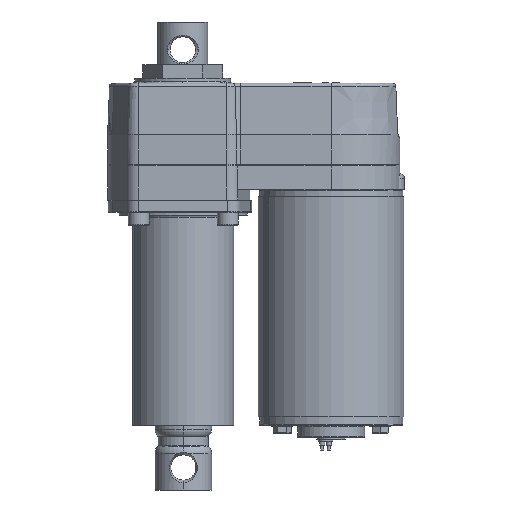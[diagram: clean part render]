
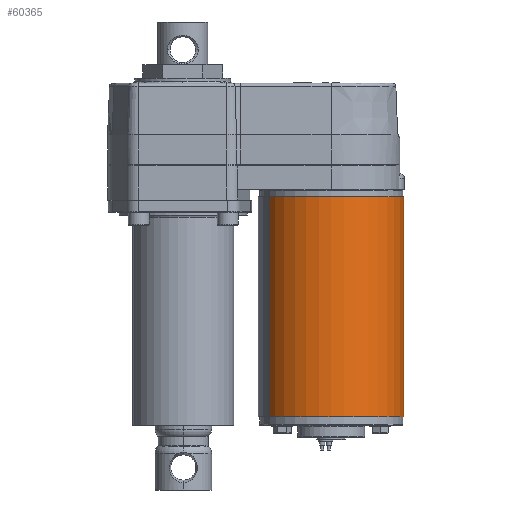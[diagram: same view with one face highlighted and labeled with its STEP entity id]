
A CAD part, front view. The second image highlights one B-rep face of the part: STEP entity #60365.
In plain terms, the highlighted cylindrical face has radius 36.805 mm (diameter 73.61 mm), a partial arc.
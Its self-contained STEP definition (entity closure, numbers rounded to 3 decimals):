
#833 = EDGE_CURVE ( 'NONE', #67118, #13141, #37939, .T. ) ;
#958 = VERTEX_POINT ( 'NONE', #35802 ) ;
#4707 = ORIENTED_EDGE ( 'NONE', *, *, #69696, .F. ) ;
#5420 = EDGE_LOOP ( 'NONE', ( #4707, #65863, #5880, #63142 ) ) ;
#5880 = ORIENTED_EDGE ( 'NONE', *, *, #833, .T. ) ;
#5988 = CYLINDRICAL_SURFACE ( 'NONE', #53856, 36.805 ) ;
#6582 = CARTESIAN_POINT ( 'NONE',  ( -36.805, 0., -3.7 ) ) ;
#7670 = CARTESIAN_POINT ( 'NONE',  ( 0., 0., -3.7 ) ) ;
#8315 = EDGE_CURVE ( 'NONE', #958, #67118, #29581, .T. ) ;
#10812 = CARTESIAN_POINT ( 'NONE',  ( 0., 0., -114.7 ) ) ;
#12492 = AXIS2_PLACEMENT_3D ( 'NONE', #10812, #65609, #60371 ) ;
#13141 = VERTEX_POINT ( 'NONE', #49157 ) ;
#19763 = EDGE_CURVE ( 'NONE', #41891, #13141, #28931, .T. ) ;
#21674 = CIRCLE ( 'NONE', #63352, 36.805 ) ;
#24299 = DIRECTION ( 'NONE',  ( -1., 0., 0. ) ) ;
#24995 = CARTESIAN_POINT ( 'NONE',  ( 36.805, 0., -3.7 ) ) ;
#28931 = LINE ( 'NONE', #64704, #55240 ) ;
#29581 = LINE ( 'NONE', #24995, #69614 ) ;
#29990 = CARTESIAN_POINT ( 'NONE',  ( 0., 0., -3.7 ) ) ;
#35802 = CARTESIAN_POINT ( 'NONE',  ( 36.805, 0., -3.7 ) ) ;
#37939 = CIRCLE ( 'NONE', #12492, 36.805 ) ;
#40652 = DIRECTION ( 'NONE',  ( 0., 0., -1. ) ) ;
#41891 = VERTEX_POINT ( 'NONE', #6582 ) ;
#45753 = DIRECTION ( 'NONE',  ( 0., 0., -1. ) ) ;
#49118 = CARTESIAN_POINT ( 'NONE',  ( 36.805, 0., -114.7 ) ) ;
#49157 = CARTESIAN_POINT ( 'NONE',  ( -36.805, 0., -114.7 ) ) ;
#52769 = DIRECTION ( 'NONE',  ( 0., 0., -1. ) ) ;
#53856 = AXIS2_PLACEMENT_3D ( 'NONE', #7670, #45753, #57899 ) ;
#55240 = VECTOR ( 'NONE', #52769, 1000. ) ;
#57557 = DIRECTION ( 'NONE',  ( 0., 0., 1. ) ) ;
#57899 = DIRECTION ( 'NONE',  ( -1., 0., 0. ) ) ;
#60365 = ADVANCED_FACE ( 'NONE', ( #65649 ), #5988, .T. ) ;
#60371 = DIRECTION ( 'NONE',  ( -1., 0., 0. ) ) ;
#63142 = ORIENTED_EDGE ( 'NONE', *, *, #19763, .F. ) ;
#63352 = AXIS2_PLACEMENT_3D ( 'NONE', #29990, #57557, #24299 ) ;
#64704 = CARTESIAN_POINT ( 'NONE',  ( -36.805, 0., -3.7 ) ) ;
#65609 = DIRECTION ( 'NONE',  ( 0., 0., 1. ) ) ;
#65649 = FACE_OUTER_BOUND ( 'NONE', #5420, .T. ) ;
#65863 = ORIENTED_EDGE ( 'NONE', *, *, #8315, .T. ) ;
#67118 = VERTEX_POINT ( 'NONE', #49118 ) ;
#69614 = VECTOR ( 'NONE', #40652, 1000. ) ;
#69696 = EDGE_CURVE ( 'NONE', #958, #41891, #21674, .T. ) ;
